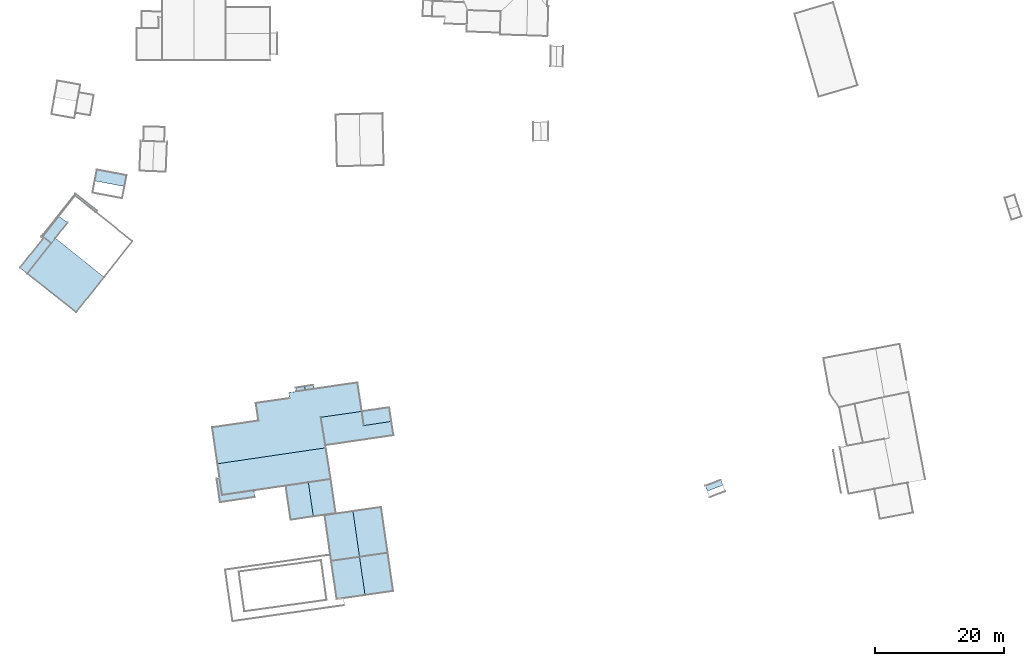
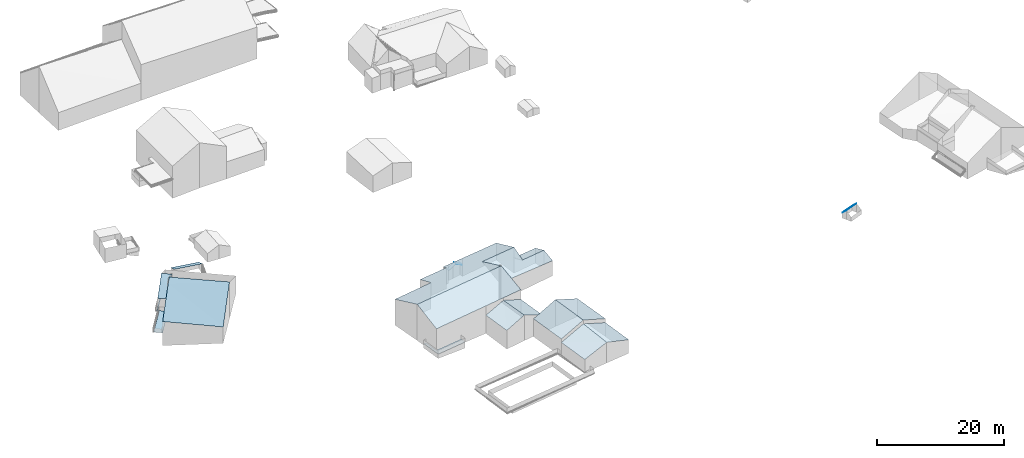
# Not in any storey, part 52 of 57: 18 roofs.
"""IFC2X3 building model written with IfcOpenShell, lengths in metres."""

from ifc_helpers import new_model, entity, si_unit, converted_unit, origin, place, context, subcontext, project, spatial, face_set, surface_model, element, save


model = new_model("IFC2X3")

# Units and contexts
model_context = context("Model", 3, precision=1e-05, world=origin())
body_context = subcontext(model_context, "Body", "Model", "MODEL_VIEW")
ifc_project = project(units=[converted_unit("PLANEANGLEUNIT", "DEGREE", entity("IfcRatioMeasure", 0.0174532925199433), si_unit("PLANEANGLEUNIT", "RADIAN"), dimensions=[0, 0, 0, 0, 0, 0, 0]), si_unit("AREAUNIT", "SQUARE_METRE"), si_unit("LENGTHUNIT", "METRE")], contexts=[model_context])

# Site, building
site_placement = place(None, origin())
site = spatial("IfcSite", under=ifc_project, at=site_placement, Name="_site", CompositionType="ELEMENT")
building_1_placement = place(site_placement, origin())
building_1 = spatial("IfcBuilding", under=site, at=building_1_placement, Name="_building", CompositionType="ELEMENT")

# Roofs
roof_1_placement = place(building_1_placement, origin())
element("IfcRoof", 1, at=roof_1_placement, inside=building_1, Name="Roof", ShapeType="NOTDEFINED", context=body_context, shape_type="SurfaceModel", body=[
    surface_model("IfcFaceBasedSurfaceModel", [(51.649, 67.651, 219.06), (51.02, 66.859, 218.52), (47.3, 62.16, 215.32), (54.88, 56.16, 215.26), (59.2, 61.619, 219.13)], [face_set([[[0, 1, 2, 3, 4]]])]),
])
roof_2_placement = place(building_1_placement, origin())
element("IfcRoof", 2, at=roof_2_placement, inside=building_1, Name="Roof", ShapeType="NOTDEFINED", context=body_context, shape_type="SurfaceModel", body=[
    surface_model("IfcFaceBasedSurfaceModel", [(57.93, 71.641, 213.14), (58.13, 71.891, 213.14), (54.75, 74.561, 213.14), (49.44, 67.84, 213.14), (49.76, 67.59, 213.14), (46.17, 63.051, 213.14), (47.3, 62.16, 213.14), (51.02, 66.859, 213.14), (49.71, 67.891, 213.14), (54.7, 74.199, 213.14)], [face_set([[[0, 1, 2, 3, 4, 5, 6, 7, 8, 9]]])]),
])
roof_3_placement = place(building_1_placement, origin())
element("IfcRoof", 3, at=roof_3_placement, inside=building_1, Name="Roof", ShapeType="NOTDEFINED", context=body_context, shape_type="SurfaceModel", body=[
    surface_model("IfcFaceBasedSurfaceModel", [(52.21, 71.051, 217.54), (49.71, 67.891, 215.44), (51.02, 66.859, 215.56), (51.649, 67.651, 216.039), (53.55, 70.051, 217.49)], [face_set([[[0, 1, 2, 3, 4]]])]),
])

# Building
building_2_placement = place(site_placement, origin())
building_2 = spatial("IfcBuilding", under=site, at=building_2_placement, Name="_building", CompositionType="ELEMENT")

# Roof
roof_4_placement = place(building_2_placement, origin())
element("IfcRoof", 4, at=roof_4_placement, inside=building_2, Name="Roof", ShapeType="NOTDEFINED", context=body_context, shape_type="SurfaceModel", body=[
    surface_model("IfcFaceBasedSurfaceModel", [(155.03, 29.381, 220.29), (154.72, 30.199, 219.46), (152.32, 29.289, 219.46), (152.64, 28.471, 220.29)], [face_set([[[0, 1, 2, 3]]])]),
])

# Building
building_3_placement = place(site_placement, origin())
building_3 = spatial("IfcBuilding", under=site, at=building_3_placement, Name="_building", CompositionType="ELEMENT")

# Roofs
roof_5_placement = place(building_3_placement, origin())
element("IfcRoof", 5, at=roof_5_placement, inside=building_3, Name="Roof", ShapeType="NOTDEFINED", context=body_context, shape_type="SurfaceModel", body=[
    surface_model("IfcFaceBasedSurfaceModel", [(76.77, 32.721, 226.17), (77.48, 27.869, 224.14), (87.34, 29.311, 224.24), (90.83, 29.82, 224.275), (94.31, 30.33, 224.31), (93.54, 35.189, 226.25)], [face_set([[[0, 1, 2, 3, 4, 5]]])]),
])
roof_6_placement = place(building_3_placement, origin())
element("IfcRoof", 6, at=roof_6_placement, inside=building_3, Name="Roof", ShapeType="NOTDEFINED", context=body_context, shape_type="SurfaceModel", body=[
    surface_model("IfcFaceBasedSurfaceModel", [(99.43, 38.631, 223.23), (99.11, 40.83, 224.47), (92.78, 39.92, 224.45), (93.47, 35.58, 222.63), (104.02, 37.131, 222.38), (103.69, 39.279, 223.23)], [face_set([[[0, 1, 2, 3, 4, 5]]])]),
])
roof_7_placement = place(building_3_placement, origin())
element("IfcRoof", 7, at=roof_7_placement, inside=building_3, Name="Roof", ShapeType="NOTDEFINED", context=body_context, shape_type="SurfaceModel", body=[
    surface_model("IfcFaceBasedSurfaceModel", [(90.83, 29.82, 223.79), (87.34, 29.311, 222.44), (88.11, 24.039, 222.42), (91.6, 24.551, 223.87)], [face_set([[[0, 1, 2, 3]]])]),
])
roof_8_placement = place(building_3_placement, origin())
element("IfcRoof", 8, at=roof_8_placement, inside=building_3, Name="Roof", ShapeType="NOTDEFINED", context=body_context, shape_type="SurfaceModel", body=[
    surface_model("IfcFaceBasedSurfaceModel", [(91.6, 24.551, 223.87), (95.08, 25.051, 222.42), (94.31, 30.33, 222.44), (90.83, 29.82, 223.79)], [face_set([[[0, 1, 2, 3]]])]),
])
roof_9_placement = place(building_3_placement, origin())
element("IfcRoof", 9, at=roof_9_placement, inside=building_3, Name="Roof", ShapeType="NOTDEFINED", context=body_context, shape_type="SurfaceModel", body=[
    surface_model("IfcFaceBasedSurfaceModel", [(103.69, 39.279, 223.23), (103.37, 41.43, 222.43), (99.11, 40.83, 222.44), (99.43, 38.631, 223.23)], [face_set([[[0, 1, 2, 3]]])]),
])
roof_10_placement = place(building_3_placement, origin())
element("IfcRoof", 10, at=roof_10_placement, inside=building_3, Name="Roof", ShapeType="NOTDEFINED", context=body_context, shape_type="SurfaceModel", body=[
    surface_model("IfcFaceBasedSurfaceModel", [(82.4, 28.59, 220.02), (77.48, 27.869, 220.02), (77.1, 30.49, 220.02), (76.63, 30.43, 220.02), (77.16, 26.76, 220.02), (82.55, 27.551, 220.02)], [face_set([[[0, 1, 2, 3, 4, 5]]])]),
])
roof_11_placement = place(building_3_placement, origin())
element("IfcRoof", 11, at=roof_11_placement, inside=building_3, Name="Roof", ShapeType="NOTDEFINED", context=body_context, shape_type="SurfaceModel", body=[
    surface_model("IfcFaceBasedSurfaceModel", [(90.34, 44.102, 222.28), (91.7, 44.301, 221.59), (91.61, 44.91, 221.59), (90.24, 44.699, 222.28)], [face_set([[[0, 1, 2, 3]]])]),
])
roof_12_placement = place(building_3_placement, origin())
element("IfcRoof", 12, at=roof_12_placement, inside=building_3, Name="Roof", ShapeType="NOTDEFINED", context=body_context, shape_type="SurfaceModel", body=[
    surface_model("IfcFaceBasedSurfaceModel", [(90.24, 44.699, 222.28), (88.88, 44.49, 221.59), (88.97, 43.91, 221.59), (90.34, 44.102, 222.28)], [face_set([[[0, 1, 2, 3]]])]),
])
roof_13_placement = place(building_3_placement, origin())
element("IfcRoof", 13, at=roof_13_placement, inside=building_3, Name="Roof", ShapeType="NOTDEFINED", context=body_context, shape_type="SurfaceModel", body=[
    surface_model("IfcFaceBasedSurfaceModel", [(99.11, 40.83, 224.47), (98.46, 45.289, 222.8), (91.7, 44.301, 222.82), (90.34, 44.102, 222.825), (88.97, 43.91, 222.83), (87.81, 43.74, 222.83), (87.93, 42.869, 223.19), (82.72, 42.109, 223.19), (83.12, 39.391, 224.1), (75.95, 38.34, 224.03), (76.77, 32.721, 226.17), (93.54, 35.189, 226.25), (93.47, 35.58, 226.1), (92.78, 39.92, 224.45)], [face_set([[[0, 1, 2, 3, 4, 5, 6, 7, 8, 9, 10, 11, 12, 13]]])]),
])

# Building
building_4_placement = place(site_placement, origin())
building_4 = spatial("IfcBuilding", under=site, at=building_4_placement, Name="_building", CompositionType="ELEMENT")

# Roofs
roof_14_placement = place(building_4_placement, origin())
element("IfcRoof", 14, at=roof_14_placement, inside=building_4, Name="Roof", ShapeType="NOTDEFINED", context=body_context, shape_type="SurfaceModel", body=[
    surface_model("IfcFaceBasedSurfaceModel", [(97.74, 25.359, 224.2), (93.37, 24.73, 222.41), (94.38, 17.65, 222.47), (98.76, 18.279, 224.2)], [face_set([[[0, 1, 2, 3]]])]),
])
roof_15_placement = place(building_4_placement, origin())
element("IfcRoof", 15, at=roof_15_placement, inside=building_4, Name="Roof", ShapeType="NOTDEFINED", context=body_context, shape_type="SurfaceModel", body=[
    surface_model("IfcFaceBasedSurfaceModel", [(98.76, 18.279, 224.2), (103.13, 18.91, 222.55), (102.11, 25.99, 222.49), (97.74, 25.359, 224.2)], [face_set([[[0, 1, 2, 3]]])]),
])
roof_16_placement = place(building_4_placement, origin())
element("IfcRoof", 16, at=roof_16_placement, inside=building_4, Name="Roof", ShapeType="NOTDEFINED", context=body_context, shape_type="SurfaceModel", body=[
    surface_model("IfcFaceBasedSurfaceModel", [(98.76, 18.279, 223.47), (94.38, 17.65, 221.79), (95.24, 11.74, 221.78), (99.61, 12.369, 223.19)], [face_set([[[0, 1, 2, 3]]])]),
])
roof_17_placement = place(building_4_placement, origin())
element("IfcRoof", 17, at=roof_17_placement, inside=building_4, Name="Roof", ShapeType="NOTDEFINED", context=body_context, shape_type="SurfaceModel", body=[
    surface_model("IfcFaceBasedSurfaceModel", [(99.61, 12.369, 223.19), (103.98, 13.0, 221.78), (103.13, 18.91, 221.8), (98.76, 18.279, 223.47)], [face_set([[[0, 1, 2, 3]]])]),
])

# Building
building_5_placement = place(site_placement, origin())
building_5 = spatial("IfcBuilding", under=site, at=building_5_placement, Name="_building", CompositionType="ELEMENT")

# Roof
roof_18_placement = place(building_5_placement, origin())
element("IfcRoof", 18, at=roof_18_placement, inside=building_5, Name="Roof", ShapeType="NOTDEFINED", context=body_context, shape_type="SurfaceModel", body=[
    surface_model("IfcFaceBasedSurfaceModel", [(62.35, 75.65, 213.03), (62.68, 77.381, 212.18), (58.08, 78.26, 212.18), (57.75, 76.529, 213.03)], [face_set([[[0, 1, 2, 3]]])]),
])

save(model, "model.ifc")
